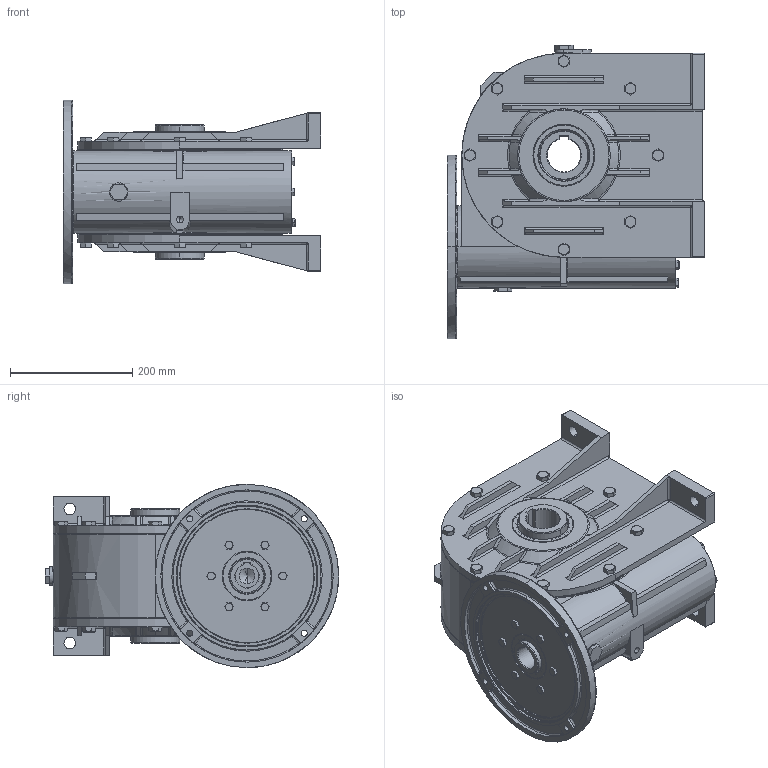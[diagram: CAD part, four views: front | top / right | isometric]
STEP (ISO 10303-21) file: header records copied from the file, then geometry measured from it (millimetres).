
FILE_DESCRIPTION (( 'STEP AP203' ), '1' );
FILE_NAME ('3F002501.STEP', '2012-07-24T06:34:29', ( 'Amministratore' ), ( 'SerteK sas' ), 'SwSTEP 2.0', 'SolidWorks 2009', '' );
FILE_SCHEMA (( 'CONFIG_CONTROL_DESIGN' ));
Products named in the file (1): 3F002501
Bounding box: 420.5 x 480 x 300 mm (x, y, z)
Surface area: 1604985.9 mm2 (no closed solid volume)
Topology: 0 solids, 58 shells, 1992 faces, 4850 edges, 3006 vertices
Faces by surface type: plane 672, cylinder 601, bspline 371, cone 348
Entity records: 85636 total; most frequent: CARTESIAN_POINT 41279, ORIENTED_EDGE 9504, DIRECTION 8856, EDGE_CURVE 4764, AXIS2_PLACEMENT_3D 3454, VERTEX_POINT 3006, EDGE_LOOP 2200, ADVANCED_FACE 1992
